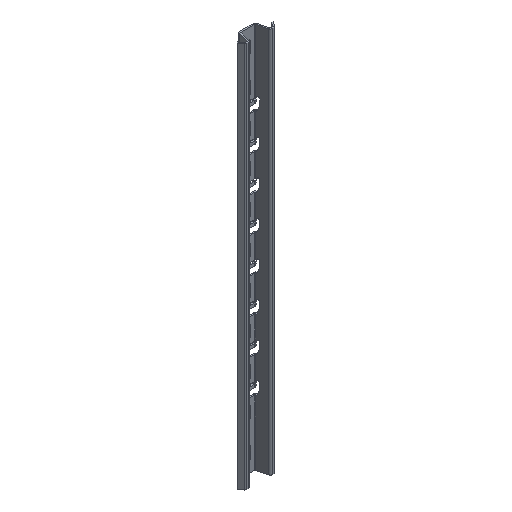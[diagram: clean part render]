
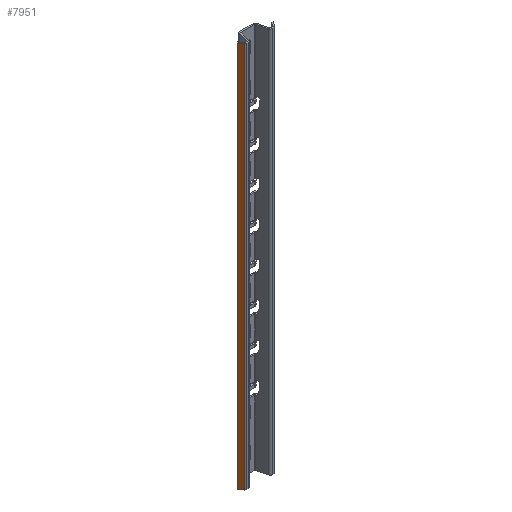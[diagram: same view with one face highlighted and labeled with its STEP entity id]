
A CAD part, isometric view. The second image highlights one B-rep face of the part: STEP entity #7951.
In plain terms, the highlighted planar face has unit normal (-0.832, -0.555, 0).
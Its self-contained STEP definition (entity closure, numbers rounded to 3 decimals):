
#1199 = DIRECTION ( 'NONE',  ( 0., 0., -1. ) ) ;
#1327 = VERTEX_POINT ( 'NONE', #12496 ) ;
#1603 = CARTESIAN_POINT ( 'NONE',  ( -26., -12.606, 550. ) ) ;
#1712 = EDGE_CURVE ( 'NONE', #6619, #8810, #13640, .T. ) ;
#1967 = ORIENTED_EDGE ( 'NONE', *, *, #1712, .T. ) ;
#2128 = EDGE_CURVE ( 'NONE', #8810, #11167, #3789, .T. ) ;
#2683 = FACE_OUTER_BOUND ( 'NONE', #10687, .T. ) ;
#3585 = VECTOR ( 'NONE', #1199, 1000. ) ;
#3789 = LINE ( 'NONE', #4811, #9795 ) ;
#3818 = LINE ( 'NONE', #7371, #6418 ) ;
#4464 = EDGE_CURVE ( 'NONE', #6619, #1327, #8784, .T. ) ;
#4662 = ORIENTED_EDGE ( 'NONE', *, *, #8595, .F. ) ;
#4811 = CARTESIAN_POINT ( 'NONE',  ( -26., -12.606, 550. ) ) ;
#5631 = CARTESIAN_POINT ( 'NONE',  ( -26., -12.606, 550. ) ) ;
#6038 = DIRECTION ( 'NONE',  ( 0., 0., -1. ) ) ;
#6049 = DIRECTION ( 'NONE',  ( -0.555, 0.832, 0. ) ) ;
#6418 = VECTOR ( 'NONE', #6705, 1000. ) ;
#6619 = VERTEX_POINT ( 'NONE', #7529 ) ;
#6705 = DIRECTION ( 'NONE',  ( -0.555, 0.832, 0. ) ) ;
#7025 = PLANE ( 'NONE',  #8945 ) ;
#7133 = CARTESIAN_POINT ( 'NONE',  ( -26., -12.606, 550. ) ) ;
#7239 = VECTOR ( 'NONE', #6049, 1000. ) ;
#7371 = CARTESIAN_POINT ( 'NONE',  ( -26., -12.606, 0. ) ) ;
#7529 = CARTESIAN_POINT ( 'NONE',  ( -21.961, -18.664, 550. ) ) ;
#7951 = ADVANCED_FACE ( 'NONE', ( #2683 ), #7025, .T. ) ;
#8193 = ORIENTED_EDGE ( 'NONE', *, *, #4464, .F. ) ;
#8374 = CARTESIAN_POINT ( 'NONE',  ( -26., -12.606, 0. ) ) ;
#8595 = EDGE_CURVE ( 'NONE', #1327, #11167, #3818, .T. ) ;
#8784 = LINE ( 'NONE', #10006, #3585 ) ;
#8810 = VERTEX_POINT ( 'NONE', #5631 ) ;
#8945 = AXIS2_PLACEMENT_3D ( 'NONE', #1603, #12450, #12381 ) ;
#9795 = VECTOR ( 'NONE', #6038, 1000. ) ;
#10006 = CARTESIAN_POINT ( 'NONE',  ( -21.961, -18.664, 550. ) ) ;
#10687 = EDGE_LOOP ( 'NONE', ( #4662, #8193, #1967, #13572 ) ) ;
#11167 = VERTEX_POINT ( 'NONE', #8374 ) ;
#12381 = DIRECTION ( 'NONE',  ( 0.555, -0.832, 0. ) ) ;
#12450 = DIRECTION ( 'NONE',  ( -0.832, -0.555, 0. ) ) ;
#12496 = CARTESIAN_POINT ( 'NONE',  ( -21.961, -18.664, 0. ) ) ;
#13572 = ORIENTED_EDGE ( 'NONE', *, *, #2128, .T. ) ;
#13640 = LINE ( 'NONE', #7133, #7239 ) ;
